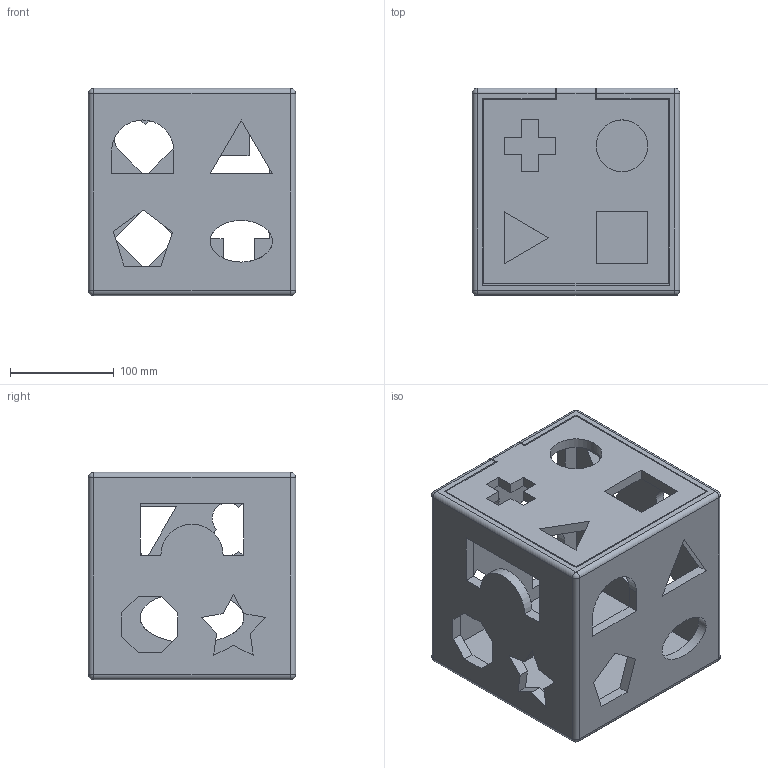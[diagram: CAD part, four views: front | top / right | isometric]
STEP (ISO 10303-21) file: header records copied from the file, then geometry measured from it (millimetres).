
FILE_DESCRIPTION(/* description */ (''),/* implementation_level */ '2;1');
FILE_NAME(/* name */ 'Juguete_nios.stp',/* time_stamp */ '2026-06-15T14:49:43+02:00',/* author */ ('algob'),/* organization */ (''),/* preprocessor_version */ 'ST-DEVELOPER v19.2',/* originating_system */ 'Autodesk Inventor 2024',/* authorisation */ '');
FILE_SCHEMA (('AUTOMOTIVE_DESIGN { 1 0 10303 214 3 1 1 }'));
Length unit declared in the file: millimetre
Products named in the file (1): Juguete_niños
Bounding box: 200 x 200 x 200 mm (x, y, z)
Volume: 1755654.7 mm3; surface area: 399675.3 mm2
Topology: 2 solids, 2 shells, 131 faces, 357 edges, 230 vertices
Faces by surface type: plane 97, cylinder 24, sphere 8, bspline 2
Full cylindrical faces by diameter (mm): 50 x1
Entity records: 4211 total; most frequent: CARTESIAN_POINT 753, ORIENTED_EDGE 714, DIRECTION 669, EDGE_CURVE 357, LINE 305, VECTOR 305, VERTEX_POINT 230, AXIS2_PLACEMENT_3D 182
